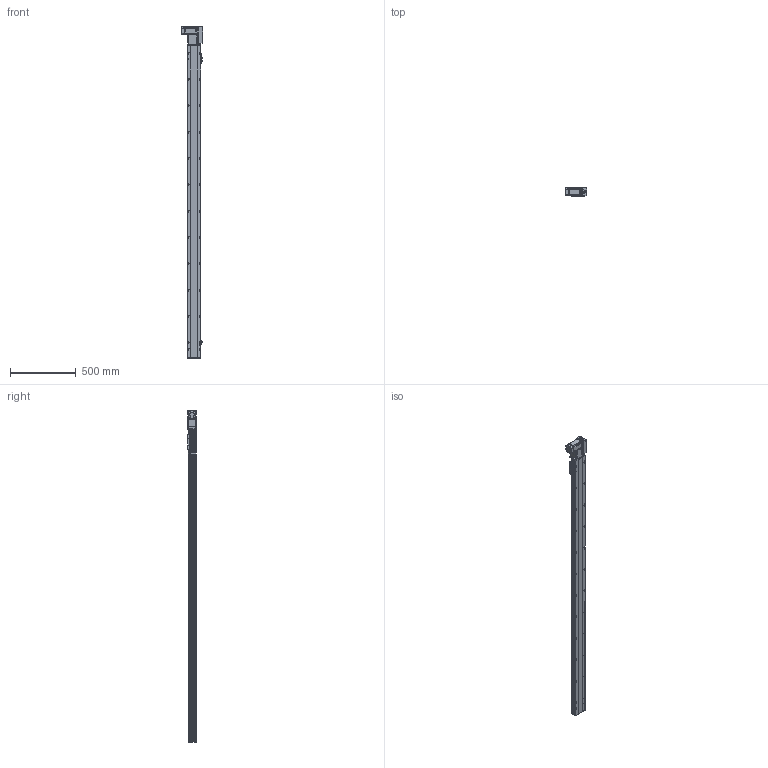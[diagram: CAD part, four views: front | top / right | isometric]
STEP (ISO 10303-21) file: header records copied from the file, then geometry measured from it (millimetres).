
FILE_DESCRIPTION (( 'STEP AP214' ), '1' );
FILE_NAME ('TPT10-L32-2150-R-T10-C4.STEP', '2023-03-03T06:31:33', ( '' ), ( '' ), 'SwSTEP 2.0', 'SolidWorks 2020', '' );
FILE_SCHEMA (( 'AUTOMOTIVE_DESIGN' ));
Length unit declared in the file: millimetre
Products named in the file (12): hexagon socket head cap screws gb_GB_FASTENER_SCREWS_HSHCS M3X6-N; 葩璃 TPT10-L-001 菁釱MZ-102A-01^TPT10-L32-R-T10-C4; 葩璃 TPT10-L-007 々湍釱MZ-169x88^TPT10-L32-R-T10-C4_L; 葩璃 TPT10-L-002 奻裔MZ-102A-02^TPT10-L32-R-T10-C4; TPT10-L32-2150-R-T10-C4; 葩璃 侂狟400W^TPT10-L32-R-T10-C4; 葩璃 TPT10-L-009 萇儂啣^TPT10-L32-R-T10-C4_100W; hexagon head bolts-full thread gb_GB_FASTENER_BOLT_STBAB A M5X16-N; 葩璃 TPT10-L-005 賑釱MZ-102A-03^TPT10-L32-R-T10-C4; hex nuts, style 1-grades ab gb_GB_FASTENER_NUT_SNAB1 M3-N; 葩璃 pm-t65-672^TPT10-L32-R-T10-C4; 葩璃 侂狟100W^TPT10-L32-R-T10-C4
Assembly tree (23 placements, depth 2):
  TPT10-L32-2150-R-T10-C4
    葩璃 TPT10-L-001 菁釱MZ-102A-01^TPT10-L32-R-T10-C4
    葩璃 TPT10-L-002 奻裔MZ-102A-02^TPT10-L32-R-T10-C4
    葩璃 TPT10-L-007 々湍釱MZ-169x88^TPT10-L32-R-T10-C4_L
    葩璃 TPT10-L-005 賑釱MZ-102A-03^TPT10-L32-R-T10-C4
    葩璃 TPT10-L-009 萇儂啣^TPT10-L32-R-T10-C4_100W
    葩璃 pm-t65-672^TPT10-L32-R-T10-C4  x3
    葩璃 侂狟100W^TPT10-L32-R-T10-C4
    葩璃 侂狟400W^TPT10-L32-R-T10-C4
    hexagon head bolts-full thread gb_GB_FASTENER_BOLT_STBAB A M5X16-N
    hexagon socket head cap screws gb_GB_FASTENER_SCREWS_HSHCS M3X6-N  x6
    hex nuts, style 1-grades ab gb_GB_FASTENER_NUT_SNAB1 M3-N  x6
Bounding box: 160.7 x 66 x 2523.65 mm (x, y, z)
Volume: 7833121.5 mm3; surface area: 1509087.7 mm2
Topology: 31 solids, 31 shells, 2071 faces, 5453 edges, 3475 vertices
Faces by surface type: plane 1092, cylinder 707, cone 226, bspline 34, torus 12
Entity records: 53939 total; most frequent: CARTESIAN_POINT 10740, DIRECTION 8784, ORIENTED_EDGE 8466, EDGE_CURVE 4233, AXIS2_PLACEMENT_3D 3124, VERTEX_POINT 2766, LINE 2536, VECTOR 2536
